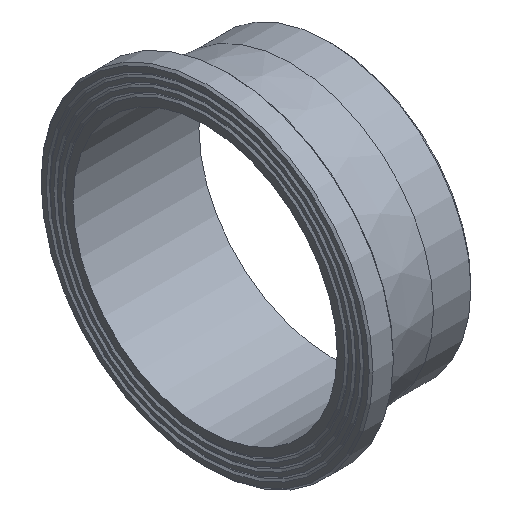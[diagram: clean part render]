
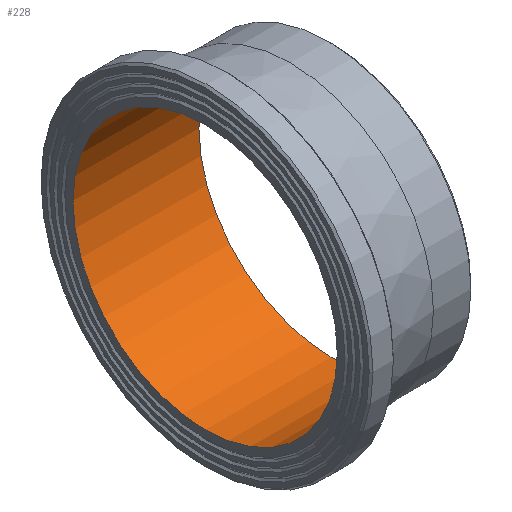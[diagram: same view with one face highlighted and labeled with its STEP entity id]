
A CAD part, isometric view. The second image highlights one B-rep face of the part: STEP entity #228.
In plain terms, the highlighted cylindrical face has radius 103.9 mm (diameter 207.8 mm), a full revolution.
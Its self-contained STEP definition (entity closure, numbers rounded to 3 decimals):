
#33=CYLINDRICAL_SURFACE('',#274,103.9);
#50=ORIENTED_EDGE('',*,*,#79,.F.);
#51=ORIENTED_EDGE('',*,*,#76,.T.);
#76=EDGE_CURVE('',#96,#96,#116,.T.);
#79=EDGE_CURVE('',#99,#99,#119,.T.);
#96=VERTEX_POINT('',#383);
#99=VERTEX_POINT('',#390);
#116=CIRCLE('',#257,103.9);
#119=CIRCLE('',#261,103.9);
#150=EDGE_LOOP('',(#50));
#151=EDGE_LOOP('',(#51));
#190=FACE_BOUND('',#150,.T.);
#191=FACE_BOUND('',#151,.T.);
#228=ADVANCED_FACE('',(#190,#191),#33,.F.);
#257=AXIS2_PLACEMENT_3D('',#382,#303,#304);
#261=AXIS2_PLACEMENT_3D('',#389,#311,#312);
#274=AXIS2_PLACEMENT_3D('',#410,#337,#338);
#303=DIRECTION('',(-1.,0.,0.));
#304=DIRECTION('',(0.,0.,1.));
#311=DIRECTION('',(-1.,0.,0.));
#312=DIRECTION('',(0.,0.,1.));
#337=DIRECTION('',(-1.,0.,0.));
#338=DIRECTION('',(0.,0.,1.));
#382=CARTESIAN_POINT('',(0.,0.,0.));
#383=CARTESIAN_POINT('',(0.,0.,103.9));
#389=CARTESIAN_POINT('',(99.,0.,0.));
#390=CARTESIAN_POINT('',(99.,0.,103.9));
#410=CARTESIAN_POINT('',(60.,0.,0.));
